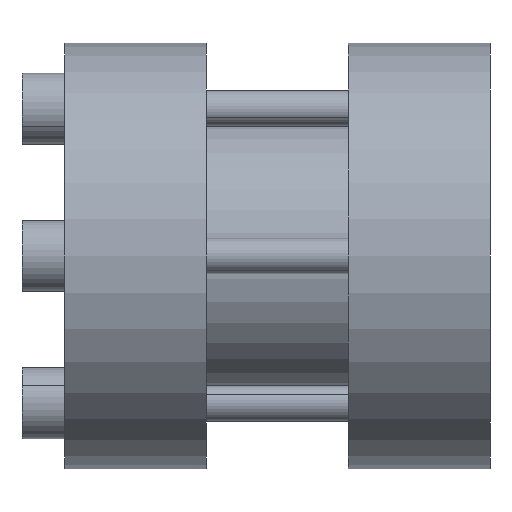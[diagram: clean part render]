
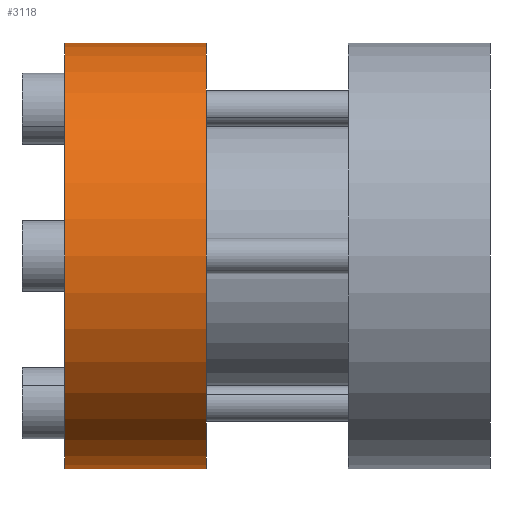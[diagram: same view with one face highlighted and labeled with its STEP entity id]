
A CAD part, front view. The second image highlights one B-rep face of the part: STEP entity #3118.
In plain terms, the highlighted cylindrical face has radius 30 mm (diameter 60 mm), a partial arc.
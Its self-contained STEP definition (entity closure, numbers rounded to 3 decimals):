
#289 = DIRECTION ( 'NONE',  ( -1., 0., 0. ) ) ;
#290 = VECTOR ( 'NONE', #289, 1000. ) ;
#291 = CARTESIAN_POINT ( 'NONE',  ( 0., 0., -30. ) ) ;
#292 = LINE ( 'NONE', #291, #290 ) ;
#293 = DIRECTION ( 'NONE',  ( 0., 0., 1. ) ) ;
#294 = DIRECTION ( 'NONE',  ( -1., 0., 0. ) ) ;
#295 = CARTESIAN_POINT ( 'NONE',  ( 0., 0., 0. ) ) ;
#296 = AXIS2_PLACEMENT_3D ( 'NONE', #295, #294, #293 ) ;
#297 = CYLINDRICAL_SURFACE ( 'NONE', #296, 30. ) ;
#298 = FACE_OUTER_BOUND ( 'NONE', #3119, .T. ) ;
#536 = CARTESIAN_POINT ( 'NONE',  ( 0., 0., -30. ) ) ;
#537 = CARTESIAN_POINT ( 'NONE',  ( 20., 0., 0. ) ) ;
#561 = DIRECTION ( 'NONE',  ( 0., 0., 1. ) ) ;
#562 = DIRECTION ( 'NONE',  ( -1., 0., 0. ) ) ;
#563 = AXIS2_PLACEMENT_3D ( 'NONE', #537, #562, #561 ) ;
#564 = CIRCLE ( 'NONE', #563, 30. ) ;
#594 = DIRECTION ( 'NONE',  ( 0., 0., 1. ) ) ;
#595 = DIRECTION ( 'NONE',  ( -1., 0., 0. ) ) ;
#596 = CARTESIAN_POINT ( 'NONE',  ( 0., 0., 0. ) ) ;
#597 = AXIS2_PLACEMENT_3D ( 'NONE', #596, #595, #594 ) ;
#598 = CIRCLE ( 'NONE', #597, 30. ) ;
#668 = CARTESIAN_POINT ( 'NONE',  ( 20., 0., -30. ) ) ;
#669 = CARTESIAN_POINT ( 'NONE',  ( 20., 0., 30. ) ) ;
#2536 = DIRECTION ( 'NONE',  ( -1., 0., 0. ) ) ;
#2537 = VECTOR ( 'NONE', #2536, 1000. ) ;
#2538 = CARTESIAN_POINT ( 'NONE',  ( 0., 0., 30. ) ) ;
#2539 = LINE ( 'NONE', #2538, #2537 ) ;
#2712 = CARTESIAN_POINT ( 'NONE',  ( 0., 0., 30. ) ) ;
#3118 = ADVANCED_FACE ( 'NONE', ( #298 ), #297, .T. ) ;
#3119 = EDGE_LOOP ( 'NONE', ( #3124, #3125, #3127, #3128 ) ) ;
#3122 = EDGE_CURVE ( 'NONE', #3209, #3123, #292, .T. ) ;
#3123 = VERTEX_POINT ( 'NONE', #536 ) ;
#3124 = ORIENTED_EDGE ( 'NONE', *, *, #3122, .F. ) ;
#3125 = ORIENTED_EDGE ( 'NONE', *, *, #3126, .T. ) ;
#3126 = EDGE_CURVE ( 'NONE', #3209, #3208, #564, .T. ) ;
#3127 = ORIENTED_EDGE ( 'NONE', *, *, #3528, .T. ) ;
#3128 = ORIENTED_EDGE ( 'NONE', *, *, #3234, .F. ) ;
#3208 = VERTEX_POINT ( 'NONE', #669 ) ;
#3209 = VERTEX_POINT ( 'NONE', #668 ) ;
#3234 = EDGE_CURVE ( 'NONE', #3123, #3330, #598, .T. ) ;
#3330 = VERTEX_POINT ( 'NONE', #2712 ) ;
#3528 = EDGE_CURVE ( 'NONE', #3208, #3330, #2539, .T. ) ;
